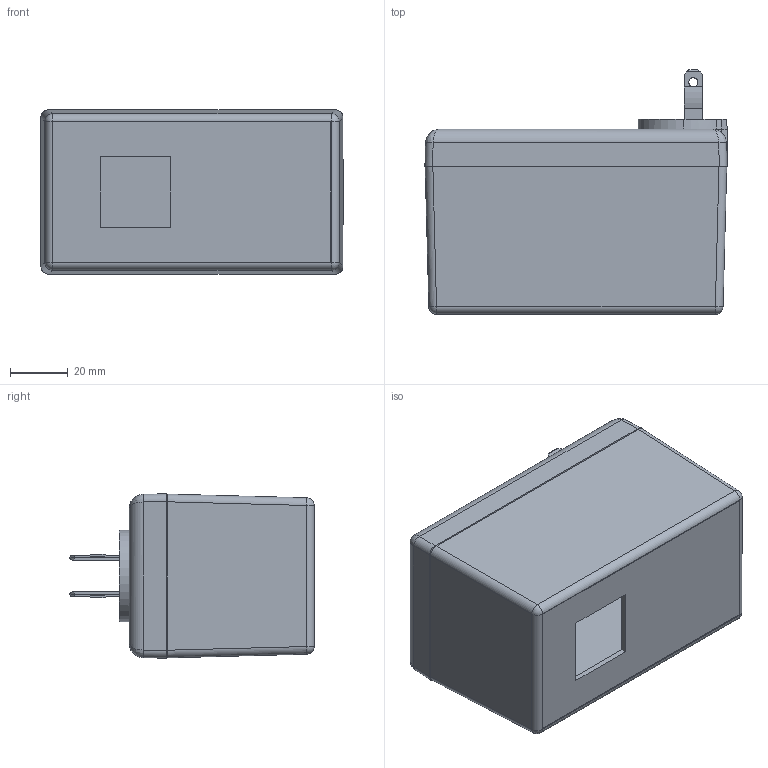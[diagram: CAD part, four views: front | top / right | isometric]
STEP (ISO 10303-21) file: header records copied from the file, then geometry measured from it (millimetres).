
FILE_DESCRIPTION (( 'STEP AP214' ), '1' );
FILE_NAME ('PM2425R12XNT.STEP', '2010-07-15T14:16:28', ( '' ), ( '' ), 'SwSTEP 2.0', 'SolidWorks 2010', '' );
FILE_SCHEMA (( 'AUTOMOTIVE_DESIGN' ));
Length unit declared in the file: inch
Products named in the file (8): TS-2420B AND PM2420_PM2420R1; B2405 ASS''Y_B24052XNT; MPB2405_MPB24052NT; BLADES; WELD DISC-PS-BK; SCREWS-HL1-BR; B2405-PCB; PM2425R12XNT
Assembly tree (11 placements, depth 3):
  PM2425R12XNT
    B2405-PCB
    SCREWS-HL1-BR  x4
    B2405 ASS''Y_B24052XNT
      WELD DISC-PS-BK
      BLADES  x2
      MPB2405_MPB24052NT
    TS-2420B AND PM2420_PM2420R1
Bounding box: 104.6 x 84.55 x 56.95 mm (x, y, z)
Volume: 86532.2 mm3; surface area: 81169.9 mm2
Topology: 10 solids, 10 shells, 883 faces, 2463 edges, 1608 vertices
Faces by surface type: cylinder 486, plane 276, cone 77, bspline 28, sphere 12, torus 4
Entity records: 18330 total; most frequent: CARTESIAN_POINT 6120, ORIENTED_EDGE 2640, DIRECTION 2346, EDGE_CURVE 1320, VERTEX_POINT 858, AXIS2_PLACEMENT_3D 823, VECTOR 700, LINE 700
